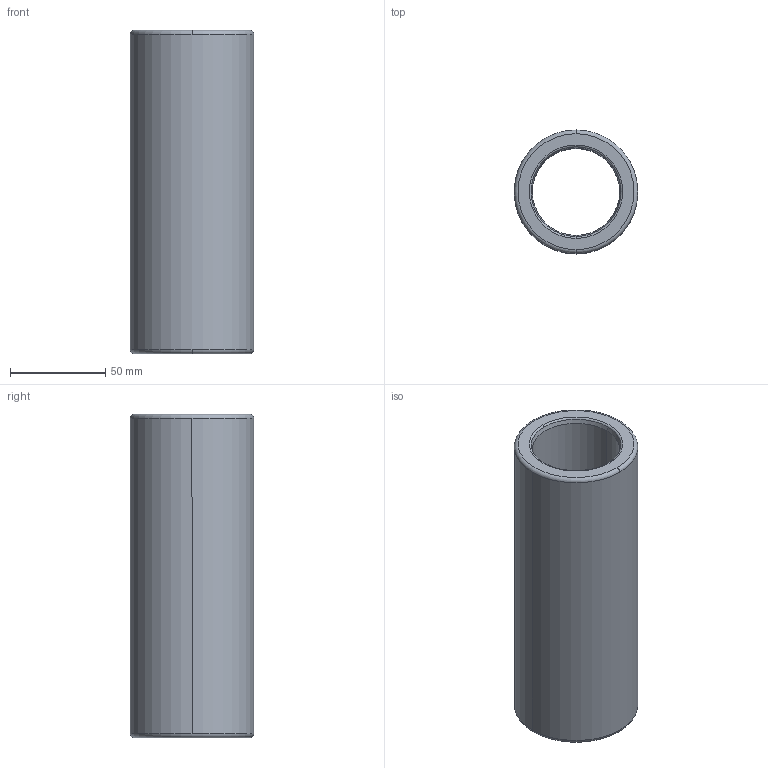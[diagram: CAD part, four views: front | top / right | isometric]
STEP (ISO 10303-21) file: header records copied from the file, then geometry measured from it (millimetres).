
FILE_DESCRIPTION((''),'2;1');
FILE_NAME('B30_038_170.stp','2009-01-12T10:47:57',(''),(''),'Mechanical Desktop 2009','Mechanical Desktop 2009',', , ');
FILE_SCHEMA(('CONFIG_CONTROL_DESIGN'));
Length unit declared in the file: millimetre
Products named in the file (2): Product; blmdl1
Assembly tree (1 placements, depth 2):
  Product
    blmdl1
Bounding box: 64.99 x 64.99 x 170 mm (x, y, z)
Volume: 281079.8 mm3; surface area: 61957.3 mm2
Topology: 1 solids, 1 shells, 18 faces, 48 edges, 32 vertices
Faces by surface type: torus 8, cylinder 4, cone 4, plane 2
Entity records: 705 total; most frequent: DIRECTION 128, CARTESIAN_POINT 100, ORIENTED_EDGE 96, AXIS2_PLACEMENT_3D 60, EDGE_CURVE 48, CIRCLE 40, VERTEX_POINT 32, EDGE_LOOP 20
